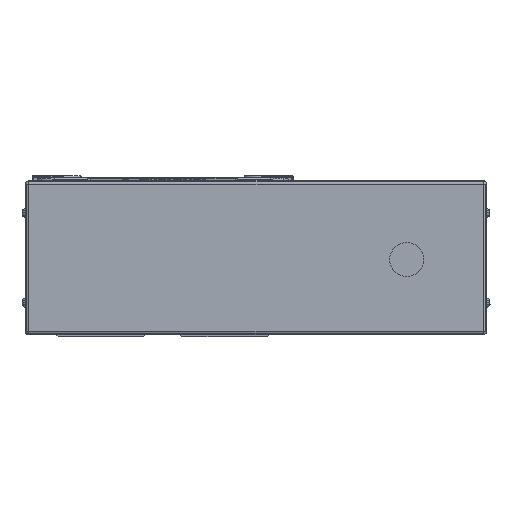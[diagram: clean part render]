
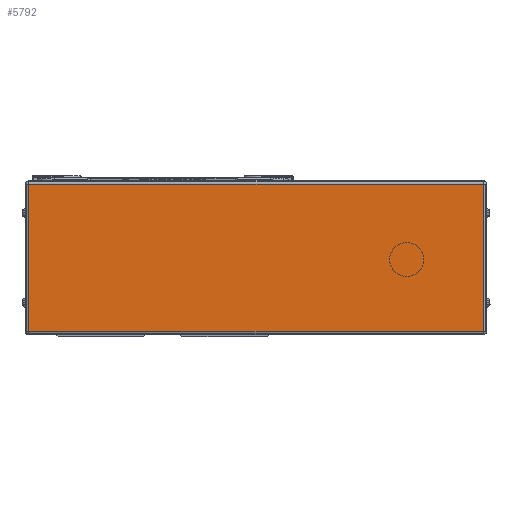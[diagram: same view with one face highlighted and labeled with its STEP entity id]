
A CAD part, left-side view. The second image highlights one B-rep face of the part: STEP entity #5792.
In plain terms, the highlighted planar face has unit normal (-1, 0, 0).
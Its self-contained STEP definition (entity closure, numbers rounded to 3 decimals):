
#5792=ADVANCED_FACE('',(#12505),#12506,.T.);
#12505=FACE_OUTER_BOUND('',#21167,.T.);
#12506=PLANE('',#21168);
#21167=EDGE_LOOP('',(#37920,#37921,#37922,#37923));
#21168=AXIS2_PLACEMENT_3D('',#37924,#37925,#37926);
#37920=ORIENTED_EDGE('',*,*,#49733,.F.);
#37921=ORIENTED_EDGE('',*,*,#50707,.F.);
#37922=ORIENTED_EDGE('',*,*,#50712,.F.);
#37923=ORIENTED_EDGE('',*,*,#50268,.F.);
#37924=CARTESIAN_POINT('',(-45.,-180.5,0.));
#37925=DIRECTION('',(-1.0,0.,0.));
#37926=DIRECTION('',(0.,0.,1.0));
#49733=EDGE_CURVE('',#54942,#60627,#60628,.T.);
#50268=EDGE_CURVE('',#60627,#61458,#61459,.T.);
#50707=EDGE_CURVE('',#62130,#54942,#62132,.T.);
#50712=EDGE_CURVE('',#61458,#62130,#62138,.T.);
#54942=VERTEX_POINT('',#67392);
#60627=VERTEX_POINT('',#76915);
#60628=LINE('',#76916,#76917);
#61458=VERTEX_POINT('',#77984);
#61459=LINE('',#77985,#77986);
#62130=VERTEX_POINT('',#78856);
#62132=LINE('',#78858,#78859);
#62138=LINE('',#78867,#78868);
#67392=CARTESIAN_POINT('',(-45.,-178.5,41.));
#76915=CARTESIAN_POINT('',(-45.,-178.5,-41.));
#76916=CARTESIAN_POINT('',(-45.,-178.5,0.));
#76917=VECTOR('',#90438,10.0);
#77984=CARTESIAN_POINT('',(-45.,74.5,-41.));
#77985=CARTESIAN_POINT('',(-45.,-180.5,-41.));
#77986=VECTOR('',#91216,10.0);
#78856=CARTESIAN_POINT('',(-45.,74.5,41.));
#78858=CARTESIAN_POINT('',(-45.,-180.5,41.));
#78859=VECTOR('',#91869,10.0);
#78867=CARTESIAN_POINT('',(-45.,74.5,0.));
#78868=VECTOR('',#91872,10.0);
#90438=DIRECTION('',(0.,0.,-1.0));
#91216=DIRECTION('',(0.,1.0,0.));
#91869=DIRECTION('',(0.,-1.0,0.));
#91872=DIRECTION('',(0.,0.,1.0));
